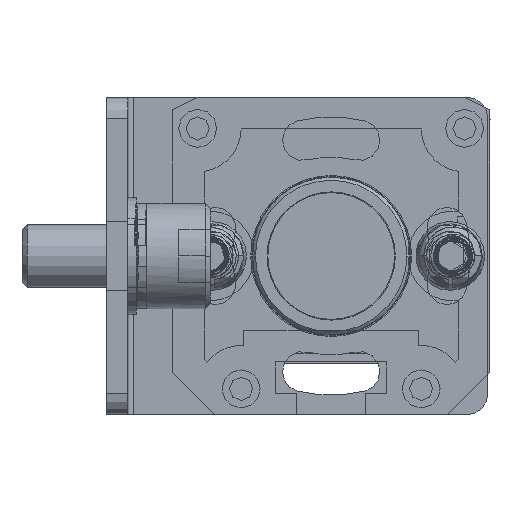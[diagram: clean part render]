
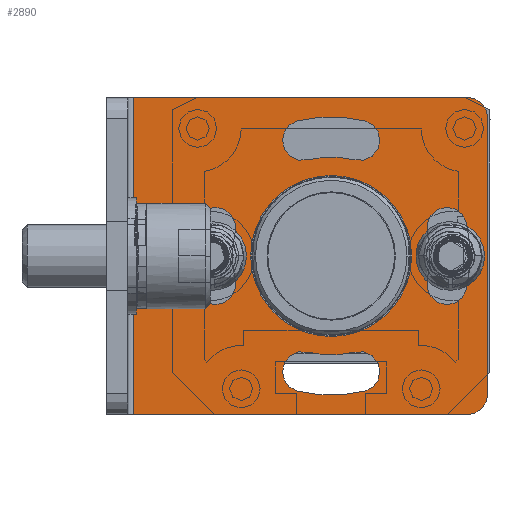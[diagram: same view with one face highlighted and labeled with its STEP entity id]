
A CAD part, front view. The second image highlights one B-rep face of the part: STEP entity #2890.
In plain terms, the highlighted planar face has unit normal (0, -1, 0).
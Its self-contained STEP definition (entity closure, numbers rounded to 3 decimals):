
#692=LINE('',#40670,#1452);
#697=LINE('',#40682,#1457);
#703=LINE('',#40698,#1463);
#707=LINE('',#40722,#1467);
#1452=VECTOR('',#13263,1.);
#1457=VECTOR('',#13272,1.);
#1463=VECTOR('',#13290,1.);
#1467=VECTOR('',#13320,1.);
#1962=PLANE('',#11082);
#2299=FACE_BOUND('',#4309,.T.);
#2300=FACE_BOUND('',#4310,.T.);
#2301=FACE_BOUND('',#4311,.T.);
#2302=FACE_BOUND('',#4312,.T.);
#2303=FACE_BOUND('',#4313,.T.);
#2304=FACE_BOUND('',#4314,.T.);
#2890=ADVANCED_FACE('',(#2299,#2300,#2301,#2302,#2303,#2304),#1962,.T.);
#4309=EDGE_LOOP('',(#6781,#6782,#6783,#6784));
#4310=EDGE_LOOP('',(#6785,#6786,#6787,#6788));
#4311=EDGE_LOOP('',(#6789,#6790,#6791,#6792));
#4312=EDGE_LOOP('',(#6793));
#4313=EDGE_LOOP('',(#6794,#6795,#6796,#6797));
#4314=EDGE_LOOP('',(#6798,#6799,#6800,#6801,#6802,#6803));
#6781=ORIENTED_EDGE('',*,*,#9603,.T.);
#6782=ORIENTED_EDGE('',*,*,#9604,.T.);
#6783=ORIENTED_EDGE('',*,*,#9542,.T.);
#6784=ORIENTED_EDGE('',*,*,#9605,.T.);
#6785=ORIENTED_EDGE('',*,*,#9606,.T.);
#6786=ORIENTED_EDGE('',*,*,#9546,.T.);
#6787=ORIENTED_EDGE('',*,*,#9607,.T.);
#6788=ORIENTED_EDGE('',*,*,#9550,.T.);
#6789=ORIENTED_EDGE('',*,*,#9608,.T.);
#6790=ORIENTED_EDGE('',*,*,#9554,.T.);
#6791=ORIENTED_EDGE('',*,*,#9609,.T.);
#6792=ORIENTED_EDGE('',*,*,#9558,.T.);
#6793=ORIENTED_EDGE('',*,*,#9563,.T.);
#6794=ORIENTED_EDGE('',*,*,#9610,.T.);
#6795=ORIENTED_EDGE('',*,*,#9611,.T.);
#6796=ORIENTED_EDGE('',*,*,#9612,.T.);
#6797=ORIENTED_EDGE('',*,*,#9564,.T.);
#6798=ORIENTED_EDGE('',*,*,#9613,.T.);
#6799=ORIENTED_EDGE('',*,*,#9614,.T.);
#6800=ORIENTED_EDGE('',*,*,#9598,.F.);
#6801=ORIENTED_EDGE('',*,*,#9584,.T.);
#6802=ORIENTED_EDGE('',*,*,#9590,.F.);
#6803=ORIENTED_EDGE('',*,*,#9615,.T.);
#8262=VERTEX_POINT('',#40580);
#8263=VERTEX_POINT('',#40581);
#8266=VERTEX_POINT('',#40589);
#8267=VERTEX_POINT('',#40590);
#8270=VERTEX_POINT('',#40598);
#8271=VERTEX_POINT('',#40599);
#8274=VERTEX_POINT('',#40607);
#8275=VERTEX_POINT('',#40608);
#8278=VERTEX_POINT('',#40616);
#8279=VERTEX_POINT('',#40617);
#8283=VERTEX_POINT('',#40627);
#8284=VERTEX_POINT('',#40630);
#8285=VERTEX_POINT('',#40631);
#8298=VERTEX_POINT('',#40667);
#8299=VERTEX_POINT('',#40669);
#8304=VERTEX_POINT('',#40681);
#8309=VERTEX_POINT('',#40699);
#8312=VERTEX_POINT('',#40709);
#8313=VERTEX_POINT('',#40710);
#8314=VERTEX_POINT('',#40718);
#8315=VERTEX_POINT('',#40720);
#8316=VERTEX_POINT('',#40723);
#8317=VERTEX_POINT('',#40724);
#9542=EDGE_CURVE('',#8262,#8263,#10244,.T.);
#9546=EDGE_CURVE('',#8266,#8267,#10246,.T.);
#9550=EDGE_CURVE('',#8270,#8271,#10248,.T.);
#9554=EDGE_CURVE('',#8274,#8275,#10250,.T.);
#9558=EDGE_CURVE('',#8278,#8279,#10252,.T.);
#9563=EDGE_CURVE('',#8283,#8283,#10255,.T.);
#9564=EDGE_CURVE('',#8284,#8285,#10256,.T.);
#9584=EDGE_CURVE('',#8298,#8299,#692,.T.);
#9590=EDGE_CURVE('',#8304,#8299,#697,.T.);
#9598=EDGE_CURVE('',#8298,#8309,#703,.T.);
#9603=EDGE_CURVE('',#8312,#8313,#10268,.T.);
#9604=EDGE_CURVE('',#8313,#8262,#10269,.T.);
#9605=EDGE_CURVE('',#8263,#8312,#10270,.T.);
#9606=EDGE_CURVE('',#8271,#8266,#10271,.T.);
#9607=EDGE_CURVE('',#8267,#8270,#10272,.T.);
#9608=EDGE_CURVE('',#8279,#8274,#10273,.T.);
#9609=EDGE_CURVE('',#8275,#8278,#10274,.T.);
#9610=EDGE_CURVE('',#8285,#8314,#10275,.T.);
#9611=EDGE_CURVE('',#8314,#8315,#10276,.T.);
#9612=EDGE_CURVE('',#8315,#8284,#10277,.T.);
#9613=EDGE_CURVE('',#8316,#8317,#707,.T.);
#9614=EDGE_CURVE('',#8317,#8309,#10278,.T.);
#9615=EDGE_CURVE('',#8304,#8316,#10279,.T.);
#10244=CIRCLE('',#11028,1.9);
#10246=CIRCLE('',#11031,13.15);
#10248=CIRCLE('',#11034,9.35);
#10250=CIRCLE('',#11037,1.9);
#10252=CIRCLE('',#11040,1.9);
#10255=CIRCLE('',#11044,7.6);
#10256=CIRCLE('',#11046,1.9);
#10268=CIRCLE('',#11070,1.9);
#10269=CIRCLE('',#11071,13.15);
#10270=CIRCLE('',#11072,9.35);
#10271=CIRCLE('',#11073,1.9);
#10272=CIRCLE('',#11074,1.9);
#10273=CIRCLE('',#11075,13.15);
#10274=CIRCLE('',#11076,9.35);
#10275=CIRCLE('',#11077,13.15);
#10276=CIRCLE('',#11078,1.9);
#10277=CIRCLE('',#11079,9.35);
#10278=CIRCLE('',#11080,2.);
#10279=CIRCLE('',#11081,2.);
#11028=AXIS2_PLACEMENT_3D('',#40579,#13179,#13180);
#11031=AXIS2_PLACEMENT_3D('',#40588,#13187,#13188);
#11034=AXIS2_PLACEMENT_3D('',#40597,#13195,#13196);
#11037=AXIS2_PLACEMENT_3D('',#40606,#13203,#13204);
#11040=AXIS2_PLACEMENT_3D('',#40615,#13211,#13212);
#11044=AXIS2_PLACEMENT_3D('',#40626,#13221,#13222);
#11046=AXIS2_PLACEMENT_3D('',#40629,#13225,#13226);
#11070=AXIS2_PLACEMENT_3D('',#40708,#13300,#13301);
#11071=AXIS2_PLACEMENT_3D('',#40711,#13302,#13303);
#11072=AXIS2_PLACEMENT_3D('',#40712,#13304,#13305);
#11073=AXIS2_PLACEMENT_3D('',#40713,#13306,#13307);
#11074=AXIS2_PLACEMENT_3D('',#40714,#13308,#13309);
#11075=AXIS2_PLACEMENT_3D('',#40715,#13310,#13311);
#11076=AXIS2_PLACEMENT_3D('',#40716,#13312,#13313);
#11077=AXIS2_PLACEMENT_3D('',#40717,#13314,#13315);
#11078=AXIS2_PLACEMENT_3D('',#40719,#13316,#13317);
#11079=AXIS2_PLACEMENT_3D('',#40721,#13318,#13319);
#11080=AXIS2_PLACEMENT_3D('',#40725,#13321,#13322);
#11081=AXIS2_PLACEMENT_3D('',#40726,#13323,#13324);
#11082=AXIS2_PLACEMENT_3D('',#40727,#13325,#13326);
#13179=DIRECTION('',(0.,1.,0.));
#13180=DIRECTION('',(0.,0.,1.));
#13187=DIRECTION('',(0.,1.,0.));
#13188=DIRECTION('',(0.,0.,1.));
#13195=DIRECTION('',(0.,-1.,0.));
#13196=DIRECTION('',(0.,0.,1.));
#13203=DIRECTION('',(0.,1.,0.));
#13204=DIRECTION('',(0.,0.,1.));
#13211=DIRECTION('',(0.,1.,0.));
#13212=DIRECTION('',(0.,0.,1.));
#13221=DIRECTION('',(0.,1.,0.));
#13222=DIRECTION('',(0.,0.,1.));
#13225=DIRECTION('',(0.,1.,0.));
#13226=DIRECTION('',(0.,0.,1.));
#13263=DIRECTION('',(0.,0.,-1.));
#13272=DIRECTION('',(-1.,0.,0.));
#13290=DIRECTION('',(1.,0.,0.));
#13300=DIRECTION('',(0.,1.,0.));
#13301=DIRECTION('',(0.,0.,1.));
#13302=DIRECTION('',(0.,1.,0.));
#13303=DIRECTION('',(0.,0.,1.));
#13304=DIRECTION('',(0.,-1.,0.));
#13305=DIRECTION('',(0.,0.,1.));
#13306=DIRECTION('',(0.,1.,0.));
#13307=DIRECTION('',(0.,0.,1.));
#13308=DIRECTION('',(0.,1.,0.));
#13309=DIRECTION('',(0.,0.,1.));
#13310=DIRECTION('',(0.,1.,0.));
#13311=DIRECTION('',(0.,0.,1.));
#13312=DIRECTION('',(0.,-1.,0.));
#13313=DIRECTION('',(0.,0.,1.));
#13314=DIRECTION('',(0.,1.,0.));
#13315=DIRECTION('',(0.,0.,1.));
#13316=DIRECTION('',(0.,1.,0.));
#13317=DIRECTION('',(0.,0.,1.));
#13318=DIRECTION('',(0.,-1.,0.));
#13319=DIRECTION('',(0.,0.,1.));
#13320=DIRECTION('',(0.,0.,1.));
#13321=DIRECTION('',(0.,-1.,0.));
#13322=DIRECTION('',(0.,0.,-1.));
#13323=DIRECTION('',(0.,-1.,0.));
#13324=DIRECTION('',(0.,0.,1.));
#13325=DIRECTION('',(0.,-1.,0.));
#13326=DIRECTION('',(-1.,0.,0.));
#40579=CARTESIAN_POINT('',(-110.921,-2078.,2.851));
#40580=CARTESIAN_POINT('',(-112.765,-2078.,3.307));
#40581=CARTESIAN_POINT('',(-109.077,-2078.,2.395));
#40588=CARTESIAN_POINT('',(-100.,-2078.,0.15));
#40589=CARTESIAN_POINT('',(-103.157,-2078.,12.915));
#40590=CARTESIAN_POINT('',(-96.843,-2078.,12.915));
#40597=CARTESIAN_POINT('',(-100.,-2078.,0.15));
#40598=CARTESIAN_POINT('',(-97.755,-2078.,9.227));
#40599=CARTESIAN_POINT('',(-102.245,-2078.,9.227));
#40606=CARTESIAN_POINT('',(-102.701,-2078.,-10.771));
#40607=CARTESIAN_POINT('',(-103.157,-2078.,-12.615));
#40608=CARTESIAN_POINT('',(-102.245,-2078.,-8.927));
#40615=CARTESIAN_POINT('',(-97.299,-2078.,-10.771));
#40616=CARTESIAN_POINT('',(-97.755,-2078.,-8.927));
#40617=CARTESIAN_POINT('',(-96.843,-2078.,-12.615));
#40626=CARTESIAN_POINT('',(-100.,-2078.,0.15));
#40627=CARTESIAN_POINT('',(-100.,-2078.,7.75));
#40629=CARTESIAN_POINT('',(-89.079,-2078.,2.851));
#40630=CARTESIAN_POINT('',(-90.923,-2078.,2.395));
#40631=CARTESIAN_POINT('',(-87.235,-2078.,3.307));
#40667=CARTESIAN_POINT('',(-118.7,-2078.,15.15));
#40669=CARTESIAN_POINT('',(-118.7,-2078.,-14.85));
#40670=CARTESIAN_POINT('',(-118.7,-2078.,15.15));
#40681=CARTESIAN_POINT('',(-87.2,-2078.,-14.85));
#40682=CARTESIAN_POINT('',(-118.7,-2078.,-14.85));
#40698=CARTESIAN_POINT('',(-118.7,-2078.,15.15));
#40699=CARTESIAN_POINT('',(-87.2,-2078.,15.15));
#40708=CARTESIAN_POINT('',(-110.921,-2078.,-2.551));
#40709=CARTESIAN_POINT('',(-109.077,-2078.,-2.095));
#40710=CARTESIAN_POINT('',(-112.765,-2078.,-3.007));
#40711=CARTESIAN_POINT('',(-100.,-2078.,0.15));
#40712=CARTESIAN_POINT('',(-100.,-2078.,0.15));
#40713=CARTESIAN_POINT('',(-102.701,-2078.,11.071));
#40714=CARTESIAN_POINT('',(-97.299,-2078.,11.071));
#40715=CARTESIAN_POINT('',(-100.,-2078.,0.15));
#40716=CARTESIAN_POINT('',(-100.,-2078.,0.15));
#40717=CARTESIAN_POINT('',(-100.,-2078.,0.15));
#40718=CARTESIAN_POINT('',(-87.235,-2078.,-3.007));
#40719=CARTESIAN_POINT('',(-89.079,-2078.,-2.551));
#40720=CARTESIAN_POINT('',(-90.923,-2078.,-2.095));
#40721=CARTESIAN_POINT('',(-100.,-2078.,0.15));
#40722=CARTESIAN_POINT('',(-85.2,-2078.,15.15));
#40723=CARTESIAN_POINT('',(-85.2,-2078.,-12.85));
#40724=CARTESIAN_POINT('',(-85.2,-2078.,13.15));
#40725=CARTESIAN_POINT('',(-87.2,-2078.,13.15));
#40726=CARTESIAN_POINT('',(-87.2,-2078.,-12.85));
#40727=CARTESIAN_POINT('',(-85.2,-2078.,15.15));
